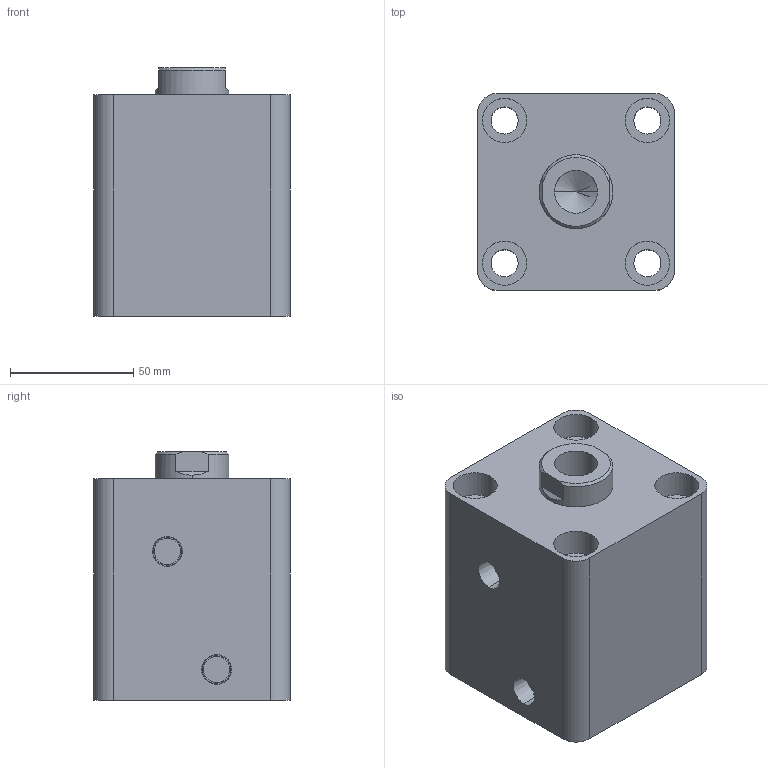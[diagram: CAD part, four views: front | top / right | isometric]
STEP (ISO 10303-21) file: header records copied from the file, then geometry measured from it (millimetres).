
FILE_DESCRIPTION (( 'STEP AP203' ), '1' );
FILE_NAME ('HTB-SD50-30N.STEP', '2019-10-07T07:07:47', ( '微软用户' ), ( '微软中国' ), 'SwSTEP 2.0', 'SolidWorks 2012', '' );
FILE_SCHEMA (( 'CONFIG_CONTROL_DESIGN' ));
Length unit declared in the file: millimetre
Products named in the file (3): HTB-SD50-30N; HTB-SD50-30N活塞杆; HTB-SD50-30掛极
Assembly tree (2 placements, depth 2):
  HTB-SD50-30N
    HTB-SD50-30掛极
    HTB-SD50-30N活塞杆
Bounding box: 80 x 80 x 101 mm (x, y, z)
Volume: 483793.5 mm3; surface area: 82851.7 mm2
Topology: 2 solids, 2 shells, 83 faces, 184 edges, 119 vertices
Faces by surface type: cylinder 42, plane 27, cone 8, torus 6
Entity records: 2655 total; most frequent: DIRECTION 456, CARTESIAN_POINT 417, ORIENTED_EDGE 364, AXIS2_PLACEMENT_3D 194, EDGE_CURVE 182, VERTEX_POINT 119, EDGE_LOOP 107, CIRCLE 106
